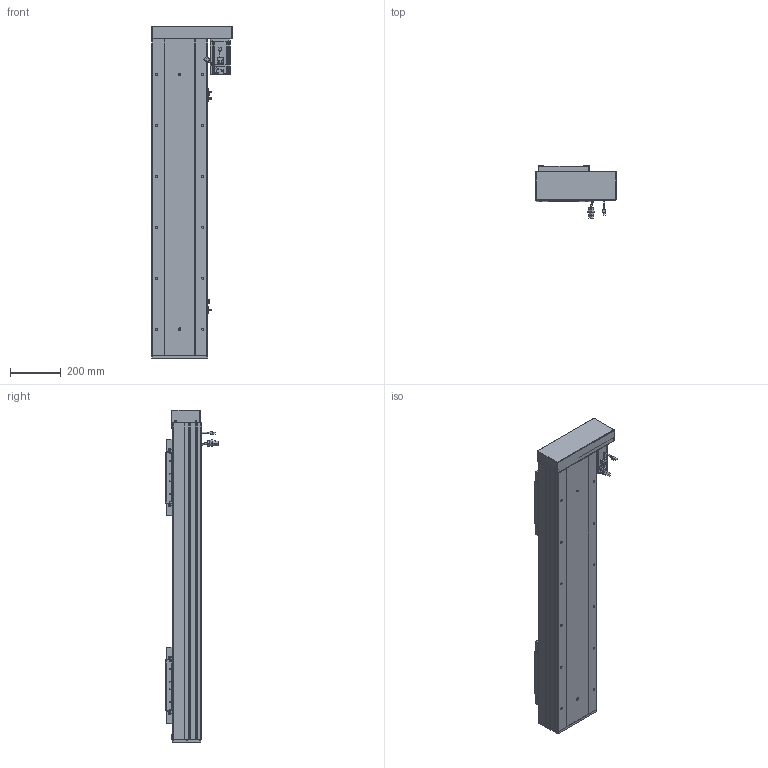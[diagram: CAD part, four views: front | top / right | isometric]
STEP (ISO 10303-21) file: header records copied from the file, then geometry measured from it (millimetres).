
FILE_DESCRIPTION (( 'STEP AP203' ), '1' );
FILE_NAME ('RY220F-L2525-800-RK-邧嶺.SLDASM_800.step', '2022-08-06T08:18:51', ( '' ), ( '' ), 'SwSTEP 2.0', 'SolidWorks 2016', '' );
FILE_SCHEMA (( 'CONFIG_CONTROL_DESIGN' ));
Length unit declared in the file: millimetre
Products named in the file (15): RY220酘衵殏萇儂欶; RY220左右折电机安装板; RY220F-672覜茼んえ; RY220F-蛌殏奻裔啣-800_800; 覜茼ん672; RY220F蛌殏菁釱-800-邧嶺_800; 怢湛750W_ECMA-CX0807ES; RY220F臏賑釱25-32佪裝; 侐源滅袉蝶; 滅袉蝶18-24; RY220F綴裔啣; RY220F-滅鳥奻裔; RY220F-祥凄詩湍-蛌殏-800_800; RY220F-L2525-800-RK-邧嶺.SLDASM_800; RY220F-詩湍揤踡輸
Assembly tree (24 placements, depth 2):
  RY220F-L2525-800-RK-邧嶺.SLDASM_800
    RY220F蛌殏菁釱-800-邧嶺_800
    RY220F-蛌殏奻裔啣-800_800  x2
    怢湛750W_ECMA-CX0807ES
    RY220F臏賑釱25-32佪裝  x2
    RY220F-滅鳥奻裔  x2
    滅袉蝶18-24  x3
    RY220F綴裔啣
    RY220F-祥凄詩湍-蛌殏-800_800
    RY220F-詩湍揤踡輸  x2
    覜茼ん672  x3
    RY220F-672覜茼んえ  x2
    RY220左右折电机安装板
    RY220酘衵殏萇儂欶
    侐源滅袉蝶  x2
Bounding box: 317.5 x 205.27 x 1303 mm (x, y, z)
Volume: 13305935.3 mm3; surface area: 3457756.9 mm2
Topology: 25 solids, 25 shells, 2724 faces, 7416 edges, 4600 vertices
Faces by surface type: cylinder 1222, plane 1044, cone 387, bspline 45, sphere 16, torus 10
Entity records: 67456 total; most frequent: CARTESIAN_POINT 18445, ORIENTED_EDGE 9918, DIRECTION 9596, EDGE_CURVE 4959, AXIS2_PLACEMENT_3D 3402, VERTEX_POINT 3216, VECTOR 2792, LINE 2792
